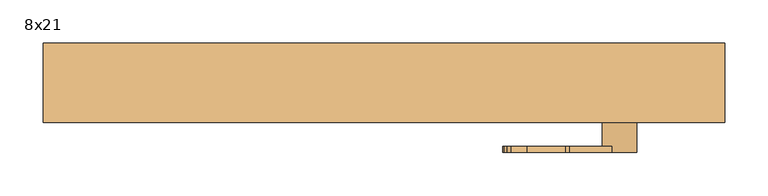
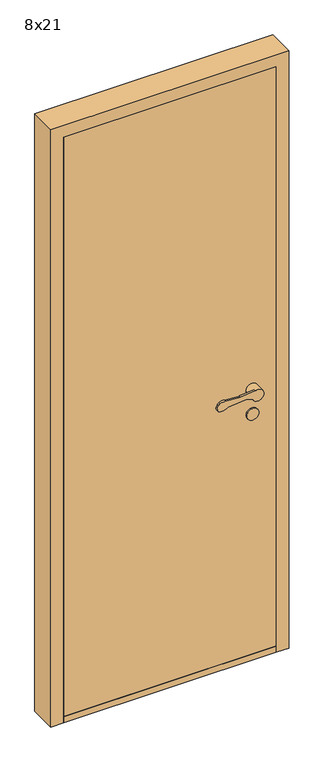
"""IFC4 building model written with IfcOpenShell, lengths in millimetres: door geometry, Innerdør Slett (Diplomat) : 8x21."""

from ifc_helpers import new_model, si_unit, point, frame, frame_2d, origin, origin_with_axes, place, context, project, spatial, polyline, circle_curve, trimmed, segment, composite_curve, outline, extrude, source, transform, mapped, element, save
from ifc_brep_helpers import plane_surface, cylinder_surface, revolved_surface, advanced_brep


def door_8x21_e3e5b9c7(model_context):
    return source(origin(), model_context, "Body", "SolidModel", [
        advanced_brep(
        [(293.9611305, 20.0, 949.1175955), (288.8520664, 20.0, 949.9496913), (226.0476109, 20.0, 943.6260011), (196.721536, 20.0, 938.7393398), (191.8691983, 20.0, 951.8913379), (195.505009, 20.0, 959.9624074), (200.3175669, 20.0, 964.8810513), (218.8963175, 20.0, 967.2639242), (263.6202158, 20.0, 964.1804415), (268.6891233, 20.0, 964.26032), (317.2687793, 20.0, 969.1517356), (346.379633, 20.0, 951.3474568), (308.3841161, 20.0, 942.6204086), (268.6891233, 12.8915284, 964.26032), (263.6202158, 12.8915284, 964.1804415), (218.8963175, 12.8915284, 967.2639242), (200.3175669, 12.8915284, 964.8810513), (195.505009, 12.8915284, 959.9624074), (191.8691983, 12.8915284, 951.8913379), (196.721536, 12.8915284, 938.7393398), (226.0476109, 12.8915284, 943.6260011), (288.8520664, 12.8915284, 949.9496913), (293.9611305, 12.8915284, 949.1175955), (308.3841161, 12.8915284, 942.6204086), (306.379633, 12.8915284, 951.3474568), (317.2687793, 12.8915284, 969.1517356), (346.379633, -15.0, 951.3474568), (306.379633, -15.0, 951.3474568)],
        [
            (0, 1, circle_curve(frame((289.8538865, 20.0, 940.0), z_axis=(0.0, -1.0, 0.0), x_axis=(-0.9949691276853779, 0.0, -0.10018200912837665)), 10.0)),
            (1, 2),
            (2, 3, circle_curve(frame((207.8569644, 20.0, 962.352734), z_axis=(0.0, 1.0, 0.0), x_axis=(-0.9949691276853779, 0.0, -0.10018200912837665)), 26.1072815)),
            (3, 4, circle_curve(frame((200.9867937, 20.0, 947.7840939), z_axis=(0.0, 1.0, 0.0), x_axis=(-0.9949691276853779, 0.0, -0.10018200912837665)), 10.0)),
            (4, 5),
            (5, 6, circle_curve(frame((204.6226045, 20.0, 955.8551634), z_axis=(0.0, 1.0, 0.0), x_axis=(-0.9949691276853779, 0.0, -0.10018200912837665)), 10.0)),
            (6, 7, circle_curve(frame((213.2326797, 20.0, 937.8033877), z_axis=(0.0, 1.0, 0.0), x_axis=(-0.9949691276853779, 0.0, -0.10018200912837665)), 30.0)),
            (7, 8),
            (8, 9, circle_curve(frame((265.683663, 20.0, 994.1093938), z_axis=(0.0, -1.0, 0.0), x_axis=(-0.9949691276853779, 0.0, -0.10018200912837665)), 30.0)),
            (9, 10),
            (10, 11, circle_curve(frame((326.379633, 20.0, 951.3474568), z_axis=(0.0, 1.0, 0.0), x_axis=(-1.0, 0.0, 0.0)), 20.0)),
            (11, 12, circle_curve(frame((326.379633, 20.0, 951.3474568), z_axis=(0.0, 1.0, 0.0), x_axis=(-1.0, 0.0, 0.0)), 20.0)),
            (12, 0),
            (13, 14, circle_curve(frame((265.683663, 12.8915284, 994.1093938), z_axis=(0.0, 1.0, 0.0), x_axis=(-0.9949691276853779, 0.0, -0.10018200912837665)), 30.0)),
            (14, 15),
            (15, 16, circle_curve(frame((213.2326797, 12.8915284, 937.8033877), z_axis=(0.0, -1.0, 0.0), x_axis=(-0.9949691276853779, 0.0, -0.10018200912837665)), 30.0)),
            (16, 17, circle_curve(frame((204.6226045, 12.8915284, 955.8551634), z_axis=(0.0, -1.0, 0.0), x_axis=(-0.9949691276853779, 0.0, -0.10018200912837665)), 10.0)),
            (17, 18),
            (18, 19, circle_curve(frame((200.9867937, 12.8915284, 947.7840939), z_axis=(0.0, -1.0, 0.0), x_axis=(-0.9949691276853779, 0.0, -0.10018200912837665)), 10.0)),
            (19, 20, circle_curve(frame((207.8569644, 12.8915284, 962.352734), z_axis=(0.0, -1.0, 0.0), x_axis=(-0.9949691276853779, 0.0, -0.10018200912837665)), 26.1072815)),
            (20, 21),
            (21, 22, circle_curve(frame((289.8538865, 12.8915284, 940.0), z_axis=(0.0, 1.0, 0.0), x_axis=(-0.9949691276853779, 0.0, -0.10018200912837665)), 10.0)),
            (22, 23),
            (23, 24, circle_curve(frame((326.379633, 12.8915284, 951.3474568), z_axis=(0.0, 1.0, 0.0), x_axis=(-1.0, 0.0, 0.0)), 20.0)),
            (24, 25, circle_curve(frame((326.379633, 12.8915284, 951.3474568), z_axis=(0.0, 1.0, 0.0), x_axis=(-1.0, 0.0, 0.0)), 20.0)),
            (25, 13),
            (9, 13),
            (25, 10),
            (22, 0),
            (12, 23),
            (21, 1),
            (20, 2),
            (19, 3),
            (18, 4),
            (17, 5),
            (16, 6),
            (15, 7),
            (14, 8),
            (26, 27, circle_curve(frame((326.379633, -15.0, 951.3474568), z_axis=(0.0, -1.0, 0.0), x_axis=(-1.0, 0.0, 0.0)), 20.0)),
            (27, 26, circle_curve(frame((326.379633, -15.0, 951.3474568), z_axis=(0.0, -1.0, 0.0), x_axis=(-1.0, 0.0, 0.0)), 20.0)),
            (27, 24),
            (11, 26),
        ],
        [
            plane_surface(frame((317.6960588, 20.0, 969.1947577), z_axis=(0.0, 1.0000000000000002, 0.0), x_axis=(0.9949691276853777, 0.0, 0.10018200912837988))),
            plane_surface(frame((317.6960588, 12.8915284, 969.1947577), z_axis=(0.0, -1.0000000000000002, 0.0), x_axis=(-0.9949691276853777, 0.0, -0.10018200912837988))),
            plane_surface(frame((268.6891233, 20.0, 964.26032), z_axis=(-0.10018200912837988, 0.0, 0.9949691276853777), x_axis=(0.0, -1.0, 0.0))),
            plane_surface(frame((326.9687366, 20.0, 934.2485115), z_axis=(-0.41072439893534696, 0.0, -0.91175954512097), x_axis=(0.0, -1.0, 0.0))),
            revolved_surface(polyline([(279.9041952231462, 12.8915284, 938.9981799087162), (279.9041952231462, 20.0, 938.9981799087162)]), (289.8538865, 12.8915284, 940.0), (0.0, -1.0, 0.0)),
            plane_surface(frame((288.8520664, 20.0, 949.9496913), z_axis=(0.10018200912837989, 0.0, -0.9949691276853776), x_axis=(0.0, -1.0, 0.0))),
            cylinder_surface(frame((207.8569644, 12.8915284, 962.352734), z_axis=(0.0, 1.0, 0.0), x_axis=(-0.9949691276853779, 0.0, -0.10018200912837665)), 26.1072815),
            cylinder_surface(frame((200.9867937, 12.8915284, 947.7840939), z_axis=(0.0, 1.0, 0.0), x_axis=(-0.9949691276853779, 0.0, -0.10018200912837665)), 10.0),
            plane_surface(frame((191.8691983, 20.0, 951.8913379), z_axis=(-0.9117595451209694, 0.0, 0.41072439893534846), x_axis=(0.0, -1.0, 0.0))),
            cylinder_surface(frame((204.6226045, 12.8915284, 955.8551634), z_axis=(0.0, 1.0, 0.0), x_axis=(-0.9949691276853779, 0.0, -0.10018200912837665)), 10.0),
            cylinder_surface(frame((213.2326797, 12.8915284, 937.8033877), z_axis=(0.0, 1.0, 0.0), x_axis=(-0.9949691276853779, 0.0, -0.10018200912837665)), 30.0),
            plane_surface(frame((218.8963175, 20.0, 967.2639242), z_axis=(0.06878157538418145, 0.0, 0.9976317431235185), x_axis=(0.0, -1.0, 0.0))),
            revolved_surface(polyline([(235.8345891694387, 12.8915284, 991.1039335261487), (235.8345891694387, 20.0, 991.1039335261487)]), (265.683663, 12.8915284, 994.1093938), (0.0, -1.0, 0.0)),
            plane_surface(frame((306.379633, -15.0, 951.3474568), z_axis=(0.0, -1.0, 0.0), x_axis=(0.0, 0.0, -1.0))),
            cylinder_surface(frame((326.379633, -15.0, 951.3474568), z_axis=(0.0, 1.0, 0.0), x_axis=(-1.0, 0.0, 0.0)), 20.0),
        ],
        [
            (0, [[1, 2, 3, 4, 5, 6, 7, 8, 9, 10, 11, 12, 13]]),
            (1, [[14, 15, 16, 17, 18, 19, 20, 21, 22, 23, 24, 25, 26]]),
            (2, [[27, -26, 28, -10]]),
            (3, [[29, -13, 30, -23]]),
            (4, [[-1, -29, -22, 31]]),
            (5, [[-2, -31, -21, 32]]),
            (6, [[-3, -32, -20, 33]]),
            (7, [[-4, -33, -19, 34]]),
            (8, [[-5, -34, -18, 35]]),
            (9, [[-6, -35, -17, 36]]),
            (10, [[-7, -36, -16, 37]]),
            (11, [[-8, -37, -15, 38]]),
            (12, [[-9, -38, -14, -27]]),
            (13, [[39, 40]]),
            (14, [[-40, 41, -24, -30, -12, 42]]),
            (14, [[-39, -42, -11, -28, -25, -41]]),
        ],
    ),
        extrude(outline(composite_curve([segment(trimmed(circle_curve(frame_2d((866.3474568, 326.379633)), 20.0), [point((866.3474568, 346.379633))], [point((866.3474568, 306.379633))], False, "CARTESIAN"), True, "CONTINUOUS"), segment(trimmed(circle_curve(frame_2d((866.3474568, 326.379633)), 20.0), [point((866.3474568, 306.379633))], [point((866.3474568, 346.379633))], False, "CARTESIAN"), True, "CONTINUOUS")], self_intersect=False)), frame((0.0, -15.0, 0.0), z_axis=(0.0, 1.0, 0.0), x_axis=(0.0, 0.0, 1.0)), (0.0, 0.0, 1.0), 5.0),
        advanced_brep(
        [(293.9611305, -100.0, 949.1175955), (308.3841161, -100.0, 942.6204086), (346.379633, -100.0, 951.3474568), (317.2687793, -100.0, 969.1517356), (268.6891233, -100.0, 964.26032), (263.6202158, -100.0, 964.1804415), (218.8963175, -100.0, 967.2639242), (200.3175669, -100.0, 964.8810513), (195.505009, -100.0, 959.9624074), (191.8691983, -100.0, 951.8913379), (196.721536, -100.0, 938.7393398), (226.0476109, -100.0, 943.6260011), (288.8520664, -100.0, 949.9496913), (268.6891233, -92.8915284, 964.26032), (317.2687793, -92.8915284, 969.1517356), (306.379633, -92.8915284, 951.3474568), (308.3841161, -92.8915284, 942.6204086), (293.9611305, -92.8915284, 949.1175955), (288.8520664, -92.8915284, 949.9496913), (226.0476109, -92.8915284, 943.6260011), (196.721536, -92.8915284, 938.7393398), (191.8691983, -92.8915284, 951.8913379), (195.505009, -92.8915284, 959.9624074), (200.3175669, -92.8915284, 964.8810513), (218.8963175, -92.8915284, 967.2639242), (263.6202158, -92.8915284, 964.1804415), (346.379633, -65.0, 951.3474568), (306.379633, -65.0, 951.3474568)],
        [
            (0, 1),
            (1, 2, circle_curve(frame((326.379633, -100.0, 951.3474568), z_axis=(0.0, -1.0, 0.0), x_axis=(-1.0, 0.0, 0.0)), 20.0)),
            (2, 3, circle_curve(frame((326.379633, -100.0, 951.3474568), z_axis=(0.0, -1.0, 0.0), x_axis=(-1.0, 0.0, 0.0)), 20.0)),
            (3, 4),
            (4, 5, circle_curve(frame((265.683663, -100.0, 994.1093938), z_axis=(0.0, 1.0, 0.0), x_axis=(-0.9949691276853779, 0.0, -0.10018200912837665)), 30.0)),
            (5, 6),
            (6, 7, circle_curve(frame((213.2326797, -100.0, 937.8033877), z_axis=(0.0, -1.0, 0.0), x_axis=(-0.9949691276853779, 0.0, -0.10018200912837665)), 30.0)),
            (7, 8, circle_curve(frame((204.6226045, -100.0, 955.8551634), z_axis=(0.0, -1.0, 0.0), x_axis=(-0.9949691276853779, 0.0, -0.10018200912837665)), 10.0)),
            (8, 9),
            (9, 10, circle_curve(frame((200.9867937, -100.0, 947.7840939), z_axis=(0.0, -1.0, 0.0), x_axis=(-0.9949691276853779, 0.0, -0.10018200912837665)), 10.0)),
            (10, 11, circle_curve(frame((207.8569644, -100.0, 962.352734), z_axis=(0.0, -1.0, 0.0), x_axis=(-0.9949691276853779, 0.0, -0.10018200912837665)), 26.1072815)),
            (11, 12),
            (12, 0, circle_curve(frame((289.8538865, -100.0, 940.0), z_axis=(0.0, 1.0, 0.0), x_axis=(-0.9949691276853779, 0.0, -0.10018200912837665)), 10.0)),
            (13, 14),
            (14, 15, circle_curve(frame((326.379633, -92.8915284, 951.3474568), z_axis=(0.0, -1.0, 0.0), x_axis=(-1.0, 0.0, 0.0)), 20.0)),
            (15, 16, circle_curve(frame((326.379633, -92.8915284, 951.3474568), z_axis=(0.0, -1.0, 0.0), x_axis=(-1.0, 0.0, 0.0)), 20.0)),
            (16, 17),
            (17, 18, circle_curve(frame((289.8538865, -92.8915284, 940.0), z_axis=(0.0, -1.0, 0.0), x_axis=(-0.9949691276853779, 0.0, -0.10018200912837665)), 10.0)),
            (18, 19),
            (19, 20, circle_curve(frame((207.8569644, -92.8915284, 962.352734), z_axis=(0.0, 1.0, 0.0), x_axis=(-0.9949691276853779, 0.0, -0.10018200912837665)), 26.1072815)),
            (20, 21, circle_curve(frame((200.9867937, -92.8915284, 947.7840939), z_axis=(0.0, 1.0, 0.0), x_axis=(-0.9949691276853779, 0.0, -0.10018200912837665)), 10.0)),
            (21, 22),
            (22, 23, circle_curve(frame((204.6226045, -92.8915284, 955.8551634), z_axis=(0.0, 1.0, 0.0), x_axis=(-0.9949691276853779, 0.0, -0.10018200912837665)), 10.0)),
            (23, 24, circle_curve(frame((213.2326797, -92.8915284, 937.8033877), z_axis=(0.0, 1.0, 0.0), x_axis=(-0.9949691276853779, 0.0, -0.10018200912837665)), 30.0)),
            (24, 25),
            (25, 13, circle_curve(frame((265.683663, -92.8915284, 994.1093938), z_axis=(0.0, -1.0, 0.0), x_axis=(-0.9949691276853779, 0.0, -0.10018200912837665)), 30.0)),
            (3, 14),
            (13, 4),
            (16, 1),
            (0, 17),
            (12, 18),
            (11, 19),
            (10, 20),
            (9, 21),
            (8, 22),
            (7, 23),
            (6, 24),
            (5, 25),
            (26, 27, circle_curve(frame((326.379633, -65.0, 951.3474568), z_axis=(0.0, 1.0, 0.0), x_axis=(-1.0, 0.0, 0.0)), 20.0)),
            (27, 26, circle_curve(frame((326.379633, -65.0, 951.3474568), z_axis=(0.0, 1.0, 0.0), x_axis=(-1.0, 0.0, 0.0)), 20.0)),
            (26, 2),
            (15, 27),
        ],
        [
            plane_surface(frame((317.6960588, -100.0, 969.1947577), z_axis=(0.0, -1.0000000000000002, 0.0), x_axis=(0.9949691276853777, 0.0, 0.10018200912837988))),
            plane_surface(frame((317.6960588, -92.8915284, 969.1947577), z_axis=(0.0, 1.0000000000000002, 0.0), x_axis=(-0.9949691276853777, 0.0, -0.10018200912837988))),
            plane_surface(frame((268.6891233, -100.0, 964.26032), z_axis=(-0.10018200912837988, 0.0, 0.9949691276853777), x_axis=(0.0, 1.0, 0.0))),
            plane_surface(frame((326.9687366, -100.0, 934.2485115), z_axis=(-0.41072439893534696, 0.0, -0.91175954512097), x_axis=(0.0, 1.0, 0.0))),
            revolved_surface(polyline([(279.9041952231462, -92.8915284, 938.9981799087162), (279.9041952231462, -100.0, 938.9981799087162)]), (289.8538865, -92.8915284, 940.0), (0.0, 1.0, 0.0)),
            plane_surface(frame((288.8520664, -100.0, 949.9496913), z_axis=(0.10018200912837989, 0.0, -0.9949691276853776), x_axis=(0.0, 1.0, 0.0))),
            cylinder_surface(frame((207.8569644, -92.8915284, 962.352734), z_axis=(0.0, -1.0, 0.0), x_axis=(-0.9949691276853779, 0.0, -0.10018200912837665)), 26.1072815),
            cylinder_surface(frame((200.9867937, -92.8915284, 947.7840939), z_axis=(0.0, -1.0, 0.0), x_axis=(-0.9949691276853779, 0.0, -0.10018200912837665)), 10.0),
            plane_surface(frame((191.8691983, -100.0, 951.8913379), z_axis=(-0.9117595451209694, 0.0, 0.41072439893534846), x_axis=(0.0, 1.0, 0.0))),
            cylinder_surface(frame((204.6226045, -92.8915284, 955.8551634), z_axis=(0.0, -1.0, 0.0), x_axis=(-0.9949691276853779, 0.0, -0.10018200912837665)), 10.0),
            cylinder_surface(frame((213.2326797, -92.8915284, 937.8033877), z_axis=(0.0, -1.0, 0.0), x_axis=(-0.9949691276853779, 0.0, -0.10018200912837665)), 30.0),
            plane_surface(frame((218.8963175, -100.0, 967.2639242), z_axis=(0.06878157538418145, 0.0, 0.9976317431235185), x_axis=(0.0, 1.0, 0.0))),
            revolved_surface(polyline([(235.8345891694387, -92.8915284, 991.1039335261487), (235.8345891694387, -100.0, 991.1039335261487)]), (265.683663, -92.8915284, 994.1093938), (0.0, 1.0, 0.0)),
            plane_surface(frame((306.379633, -65.0, 951.3474568), z_axis=(0.0, 1.0, 0.0), x_axis=(0.0, 0.0, -1.0))),
            cylinder_surface(frame((326.379633, -65.0, 951.3474568), z_axis=(0.0, -1.0, 0.0), x_axis=(-1.0, 0.0, 0.0)), 20.0),
        ],
        [
            (0, [[1, 2, 3, 4, 5, 6, 7, 8, 9, 10, 11, 12, 13]]),
            (1, [[14, 15, 16, 17, 18, 19, 20, 21, 22, 23, 24, 25, 26]]),
            (2, [[-4, 27, -14, 28]]),
            (3, [[-17, 29, -1, 30]]),
            (4, [[31, -18, -30, -13]]),
            (5, [[32, -19, -31, -12]]),
            (6, [[33, -20, -32, -11]]),
            (7, [[34, -21, -33, -10]]),
            (8, [[35, -22, -34, -9]]),
            (9, [[36, -23, -35, -8]]),
            (10, [[37, -24, -36, -7]]),
            (11, [[38, -25, -37, -6]]),
            (12, [[-28, -26, -38, -5]]),
            (13, [[39, 40]]),
            (14, [[41, -2, -29, -16, 42, -39]]),
            (14, [[-42, -15, -27, -3, -41, -40]]),
        ],
    ),
        extrude(outline(composite_curve([segment(trimmed(circle_curve(frame_2d((866.3474568, 326.379633)), 20.0), [point((866.3474568, 346.379633))], [point((866.3474568, 306.379633))], False, "CARTESIAN"), True, "CONTINUOUS"), segment(trimmed(circle_curve(frame_2d((866.3474568, 326.379633)), 20.0), [point((866.3474568, 306.379633))], [point((866.3474568, 346.379633))], False, "CARTESIAN"), True, "CONTINUOUS")], self_intersect=False)), frame((0.0, -70.0, 0.0), z_axis=(0.0, 1.0, 0.0), x_axis=(0.0, 0.0, 1.0)), (0.0, 0.0, 1.0), 5.0),
        extrude(outline(polyline([(406.379633, 27.0), (406.379633, -65.0), (-299.620367, -65.0), (-299.620367, 27.0), (406.379633, 27.0)])), origin_with_axes(), (0.0, 0.0, 1.0), 22.0),
        extrude(outline(polyline([(406.379633, -15.0), (406.379633, -65.0), (-299.620367, -65.0), (-299.620367, -15.0), (406.379633, -15.0)])), frame((0.0, 0.0, 22.0), z_axis=(0.0, 0.0, 1.0), x_axis=(1.0, 0.0, 0.0)), (0.0, 0.0, 1.0), 2031.0),
        extrude(outline(polyline([(0.0, -299.620367), (2053.0, -299.620367), (2053.0, 406.379633), (0.0, 406.379633), (0.0, 448.379633), (2095.0, 448.379633), (2095.0, -341.620367), (0.0, -341.620367), (0.0, -299.620367)])), frame((0.0, -65.0, 0.0), z_axis=(0.0, 1.0, 0.0), x_axis=(0.0, 0.0, 1.0)), (0.0, 0.0, 1.0), 92.0),
    ])


if __name__ == "__main__":
    model = new_model("IFC4")
    model_context = context("Model", 3, world=origin())
    ifc_project = project(units=[si_unit("LENGTHUNIT", "METRE", prefix="MILLI")], contexts=[model_context])
    site = spatial("IfcSite", under=ifc_project)
    building = spatial("IfcBuilding", under=site)
    placement = place(None, origin())
    door_8x21_shape = door_8x21_e3e5b9c7(model_context)
    element("IfcDoor", 1, ObjectType="Innerdør Slett (Diplomat) : 8x21", at=placement, inside=building, context=model_context, shape_type="MappedRepresentation", body=[
        mapped(door_8x21_shape, transform((0.0, 0.0, 0.0), x_axis=(1.0, 0.0, 0.0), y_axis=(0.0, 1.0, 0.0), z_axis=(0.0, 0.0, 1.0))),
    ])
    save(model, "model.ifc")
